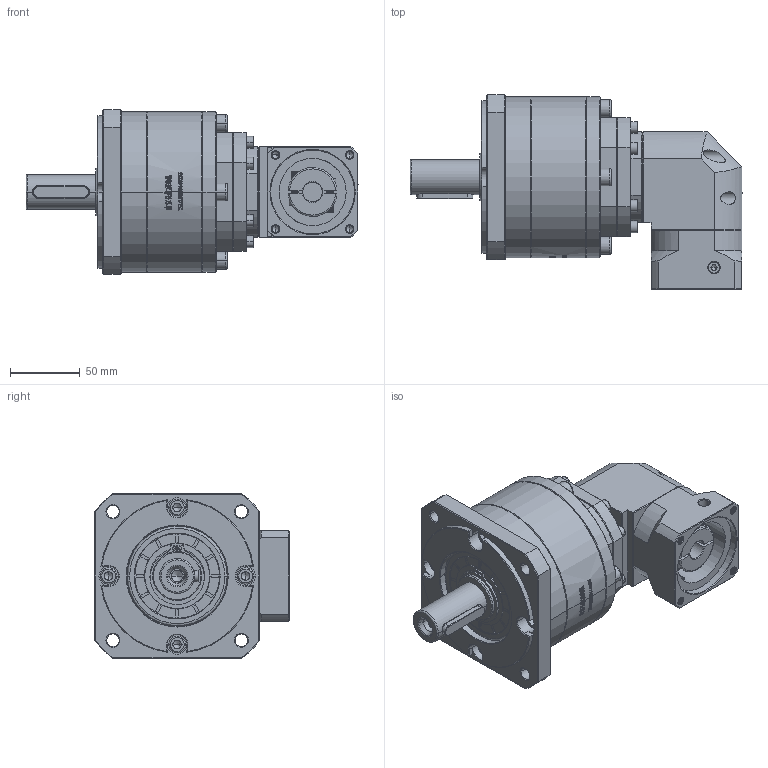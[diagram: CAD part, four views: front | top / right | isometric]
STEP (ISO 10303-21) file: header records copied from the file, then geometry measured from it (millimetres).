
FILE_DESCRIPTION (( 'STEP AP214' ), '1' );
FILE_NAME ('ZFR120A-D25-L3-14-60-75-M6.step', '2023-03-08T14:53:06', ( '' ), ( 'Microsoft' ), 'SwSTEP 2.0', 'SolidWorks 2016', '' );
FILE_SCHEMA (( 'AUTOMOTIVE_DESIGN' ));
Length unit declared in the file: millimetre
Products named in the file (1): ZFR120A-D25-L3-14-60-75-M6
Bounding box: 237.5 x 139.2 x 118 mm (x, y, z)
Volume: 1480733.9 mm3; surface area: 140744 mm2
Topology: 6 solids, 6 shells, 3038 faces, 8039 edges, 5157 vertices
Faces by surface type: plane 1595, bspline 637, cylinder 460, cone 346
Entity records: 161884 total; most frequent: CARTESIAN_POINT 59159, ORIENTED_EDGE 15970, DIRECTION 11817, EDGE_CURVE 7985, VERTEX_POINT 5157, VECTOR 5019, LINE 5019, AXIS2_PLACEMENT_3D 3399
